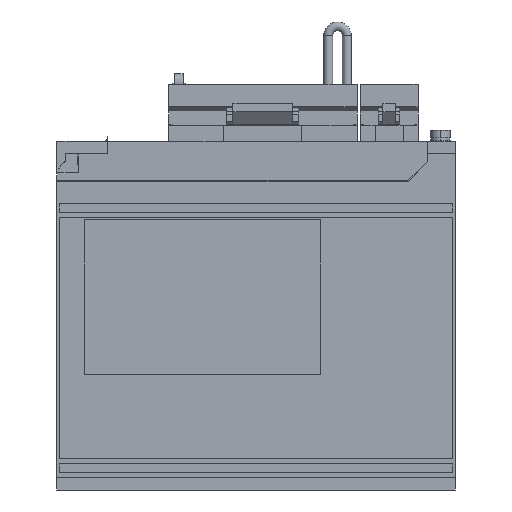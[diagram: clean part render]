
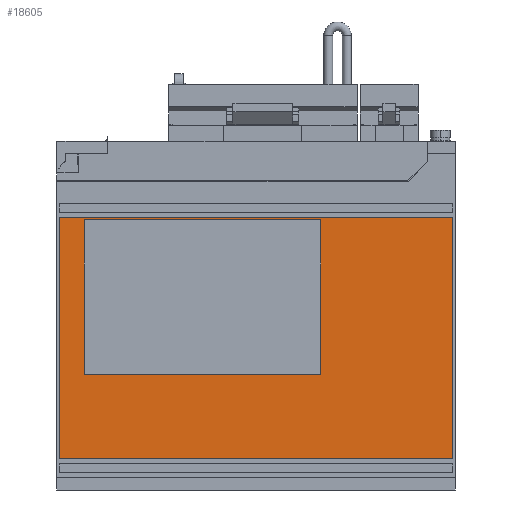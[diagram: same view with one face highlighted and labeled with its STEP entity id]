
A CAD part, left-side view. The second image highlights one B-rep face of the part: STEP entity #18605.
In plain terms, the highlighted planar face has unit normal (-1, 0, 0).
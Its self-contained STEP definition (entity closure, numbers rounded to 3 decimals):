
#18605 = ADVANCED_FACE ( 'NONE', ( #45655, #45654 ), #45653, .T. ) ;
#18606 = EDGE_LOOP ( 'NONE', ( #18607, #18665, #18668, #18671 ) ) ;
#18607 = ORIENTED_EDGE ( 'NONE', *, *, #18608, .F. ) ;
#18608 = EDGE_CURVE ( 'NONE', #18609, #18664, #45648, .T. ) ;
#18609 = VERTEX_POINT ( 'NONE', #45644 ) ;
#18613 = EDGE_CURVE ( 'NONE', #18614, #18632, #45707, .T. ) ;
#18614 = VERTEX_POINT ( 'NONE', #45703 ) ;
#18622 = EDGE_CURVE ( 'NONE', #18623, #18614, #45692, .T. ) ;
#18623 = VERTEX_POINT ( 'NONE', #45688 ) ;
#18629 = VERTEX_POINT ( 'NONE', #45677 ) ;
#18631 = EDGE_CURVE ( 'NONE', #18632, #18629, #45676, .T. ) ;
#18632 = VERTEX_POINT ( 'NONE', #45739 ) ;
#18650 = ORIENTED_EDGE ( 'NONE', *, *, #18613, .T. ) ;
#18664 = VERTEX_POINT ( 'NONE', #45757 ) ;
#18665 = ORIENTED_EDGE ( 'NONE', *, *, #18666, .F. ) ;
#18666 = EDGE_CURVE ( 'NONE', #18667, #18609, #45756, .T. ) ;
#18667 = VERTEX_POINT ( 'NONE', #45752 ) ;
#18668 = ORIENTED_EDGE ( 'NONE', *, *, #18669, .F. ) ;
#18669 = EDGE_CURVE ( 'NONE', #18670, #18667, #45751, .T. ) ;
#18670 = VERTEX_POINT ( 'NONE', #45747 ) ;
#18671 = ORIENTED_EDGE ( 'NONE', *, *, #18672, .F. ) ;
#18672 = EDGE_CURVE ( 'NONE', #18664, #18670, #45746, .T. ) ;
#18673 = EDGE_LOOP ( 'NONE', ( #18674, #18675, #18676, #18650 ) ) ;
#18674 = ORIENTED_EDGE ( 'NONE', *, *, #18631, .T. ) ;
#18675 = ORIENTED_EDGE ( 'NONE', *, *, #18684, .T. ) ;
#18676 = ORIENTED_EDGE ( 'NONE', *, *, #18622, .T. ) ;
#18684 = EDGE_CURVE ( 'NONE', #18629, #18623, #45797, .T. ) ;
#45644 = CARTESIAN_POINT ( 'NONE',  ( -34.7, -6., 108.5 ) ) ;
#45645 = DIRECTION ( 'NONE',  ( 0., 0., -1. ) ) ;
#45646 = VECTOR ( 'NONE', #45645, 1000. ) ;
#45647 = CARTESIAN_POINT ( 'NONE',  ( -34.7, -6., 109.5 ) ) ;
#45648 = LINE ( 'NONE', #45647, #45646 ) ;
#45649 = DIRECTION ( 'NONE',  ( 0., 0., 1. ) ) ;
#45650 = DIRECTION ( 'NONE',  ( -1., 0., 0. ) ) ;
#45651 = CARTESIAN_POINT ( 'NONE',  ( -34.7, -154., 109.5 ) ) ;
#45652 = AXIS2_PLACEMENT_3D ( 'NONE', #45651, #45650, #45649 ) ;
#45653 = PLANE ( 'NONE',  #45652 ) ;
#45654 = FACE_OUTER_BOUND ( 'NONE', #18673, .T. ) ;
#45655 = FACE_BOUND ( 'NONE', #18606, .T. ) ;
#45676 = LINE ( 'NONE', #45742, #45741 ) ;
#45677 = CARTESIAN_POINT ( 'NONE',  ( -34.7, 4., 109.5 ) ) ;
#45688 = CARTESIAN_POINT ( 'NONE',  ( -34.7, 4., 12.5 ) ) ;
#45689 = DIRECTION ( 'NONE',  ( 0., -1., 0. ) ) ;
#45690 = VECTOR ( 'NONE', #45689, 1000. ) ;
#45691 = CARTESIAN_POINT ( 'NONE',  ( -34.7, 4., 12.5 ) ) ;
#45692 = LINE ( 'NONE', #45691, #45690 ) ;
#45703 = CARTESIAN_POINT ( 'NONE',  ( -34.7, -154., 12.5 ) ) ;
#45704 = DIRECTION ( 'NONE',  ( 0., 0., 1. ) ) ;
#45705 = VECTOR ( 'NONE', #45704, 1000. ) ;
#45706 = CARTESIAN_POINT ( 'NONE',  ( -34.7, -154., 12.5 ) ) ;
#45707 = LINE ( 'NONE', #45706, #45705 ) ;
#45739 = CARTESIAN_POINT ( 'NONE',  ( -34.7, -154., 109.5 ) ) ;
#45740 = DIRECTION ( 'NONE',  ( 0., 1., 0. ) ) ;
#45741 = VECTOR ( 'NONE', #45740, 1000. ) ;
#45742 = CARTESIAN_POINT ( 'NONE',  ( -34.7, 4., 109.5 ) ) ;
#45743 = DIRECTION ( 'NONE',  ( 0., -1., 0. ) ) ;
#45744 = VECTOR ( 'NONE', #45743, 1000. ) ;
#45745 = CARTESIAN_POINT ( 'NONE',  ( -34.7, -154., 46.5 ) ) ;
#45746 = LINE ( 'NONE', #45745, #45744 ) ;
#45747 = CARTESIAN_POINT ( 'NONE',  ( -34.7, -101., 46.5 ) ) ;
#45748 = DIRECTION ( 'NONE',  ( 0., 0., 1. ) ) ;
#45749 = VECTOR ( 'NONE', #45748, 1000. ) ;
#45750 = CARTESIAN_POINT ( 'NONE',  ( -34.7, -101., 109.5 ) ) ;
#45751 = LINE ( 'NONE', #45750, #45749 ) ;
#45752 = CARTESIAN_POINT ( 'NONE',  ( -34.7, -101., 108.5 ) ) ;
#45753 = DIRECTION ( 'NONE',  ( 0., 1., 0. ) ) ;
#45754 = VECTOR ( 'NONE', #45753, 1000. ) ;
#45755 = CARTESIAN_POINT ( 'NONE',  ( -34.7, -154., 108.5 ) ) ;
#45756 = LINE ( 'NONE', #45755, #45754 ) ;
#45757 = CARTESIAN_POINT ( 'NONE',  ( -34.7, -6., 46.5 ) ) ;
#45794 = DIRECTION ( 'NONE',  ( 0., 0., -1. ) ) ;
#45795 = VECTOR ( 'NONE', #45794, 1000. ) ;
#45796 = CARTESIAN_POINT ( 'NONE',  ( -34.7, 4., 12.5 ) ) ;
#45797 = LINE ( 'NONE', #45796, #45795 ) ;
